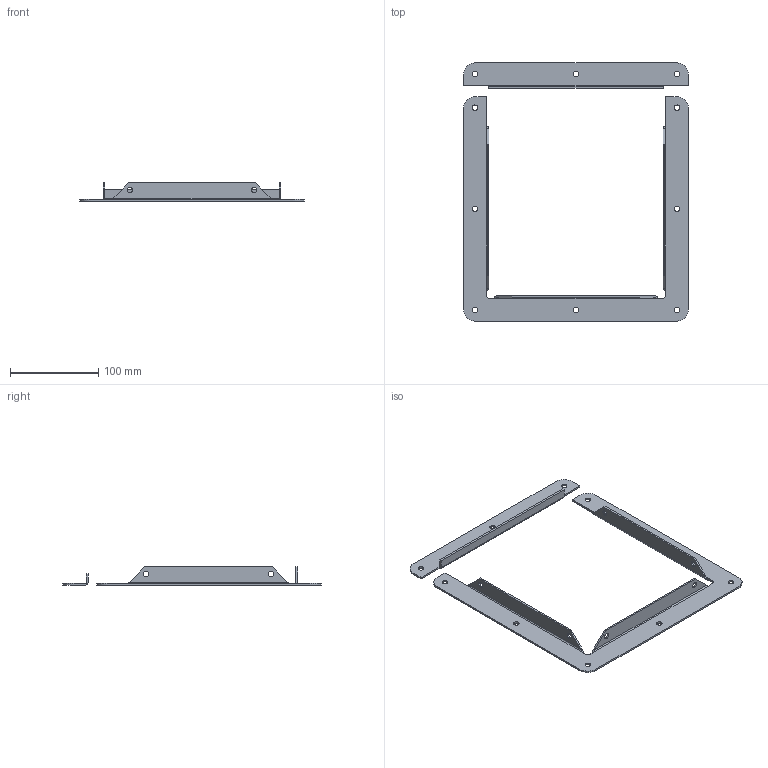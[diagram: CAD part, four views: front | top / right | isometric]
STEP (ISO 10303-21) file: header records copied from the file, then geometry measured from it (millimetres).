
FILE_DESCRIPTION((''),'1');
FILE_NAME('10','2001-04-18T',('jlue'),(''),'PRO/ENGINEER BY PARAMETRIC TECHNOLOGY CORPORATION, 9846','PRO/ENGINEER BY PARAMETRIC TECHNOLOGY CORPORATION, 9846','');
FILE_SCHEMA(('CONFIG_CONTROL_DESIGN'));
Length unit declared in the file: inch
Products named in the file (1): 10
Bounding box: 254 x 292.1 x 20.62 mm (x, y, z)
Surface area: 78101.2 mm2 (no closed solid volume)
Topology: 0 solids, 0 shells, 88 faces, 486 edges, 500 vertices
Faces by surface type: cylinder 48, plane 40
Entity records: 2554 total; most frequent: DIRECTION 498, COMPOSITE_CURVE_SEGMENT 472, CARTESIAN_POINT 428, TRIMMED_CURVE 238, AXIS2_PLACEMENT_3D 172, VECTOR 154, LINE 154, CURVE_BOUNDED_SURFACE 88
